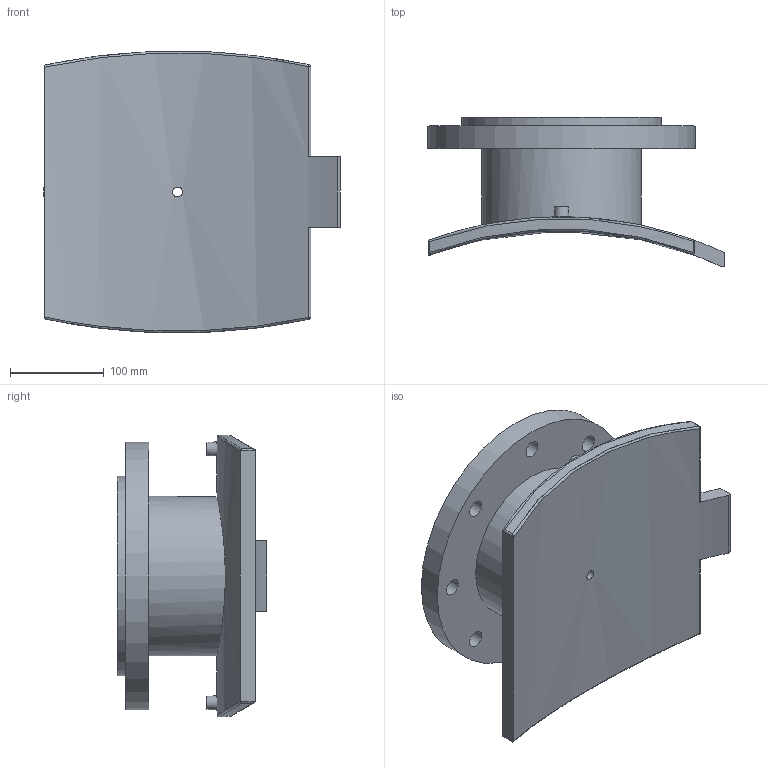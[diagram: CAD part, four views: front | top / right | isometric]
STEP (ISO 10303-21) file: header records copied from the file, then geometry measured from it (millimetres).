
FILE_DESCRIPTION(/* description */ ('PLASSON FLANGED BRANCH SADDLE 450-800X150'),/* implementation_level */ '2;1');
FILE_NAME(/* name */ 'C:\Dropbox\KIMPROJECTS-Inventor 2019\99-16-3568-Processing\ElectroFusion Fittings\495904_495903\stp\495904710150T.stp',/* time_stamp */ '2024-04-03T21:00:39+02:00',/* author */ ('KIM'),/* organization */ (''),/* preprocessor_version */ 'ST-DEVELOPER v17.2',/* originating_system */ 'Autodesk Inventor 2019',/* authorisation */ '');
FILE_SCHEMA (('AUTOMOTIVE_DESIGN { 1 0 10303 214 3 1 1 }'));
Length unit declared in the file: millimetre
Products named in the file (1): 495904710150T
Bounding box: 315.75 x 158.89 x 299.55 mm (x, y, z)
Volume: 2903693.9 mm3; surface area: 408675.5 mm2
Topology: 1 solids, 1 shells, 59 faces, 154 edges, 120 vertices
Faces by surface type: cylinder 32, plane 17, sphere 4, bspline 4, cone 2
Full cylindrical faces by diameter (mm): 4 x2, 10 x2, 10.4 x1, 16 x1, 18 x8, 150 x1, 169.6 x1, 212 x1, 285 x1
Entity records: 2392 total; most frequent: CARTESIAN_POINT 867, DIRECTION 304, ORIENTED_EDGE 280, EDGE_CURVE 140, AXIS2_PLACEMENT_3D 128, VERTEX_POINT 94, EDGE_LOOP 88, CIRCLE 72
